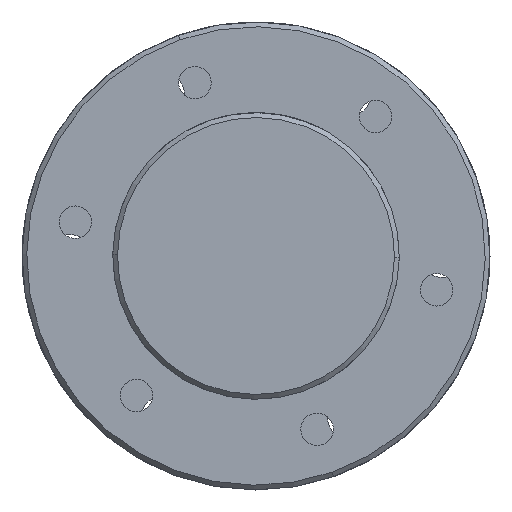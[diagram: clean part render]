
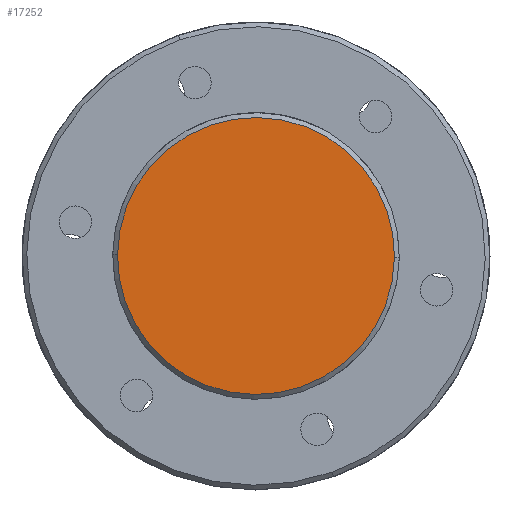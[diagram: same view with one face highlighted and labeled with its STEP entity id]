
A CAD part, left-side view. The second image highlights one B-rep face of the part: STEP entity #17252.
In plain terms, the highlighted planar face has unit normal (-1, 0, 0).
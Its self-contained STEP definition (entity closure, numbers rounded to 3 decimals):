
#1226 = CARTESIAN_POINT ( 'NONE',  ( 0., 0., -29. ) ) ;
#1478 = DIRECTION ( 'NONE',  ( 1., 0., 0. ) ) ;
#1578 = EDGE_CURVE ( 'NONE', #5221, #21408, #8401, .T. ) ;
#1991 = DIRECTION ( 'NONE',  ( 0., 0., -1. ) ) ;
#3402 = DIRECTION ( 'NONE',  ( -1., 0., 0. ) ) ;
#5221 = VERTEX_POINT ( 'NONE', #1226 ) ;
#5362 = EDGE_CURVE ( 'NONE', #21408, #5221, #9772, .T. ) ;
#6454 = DIRECTION ( 'NONE',  ( 0., 0., -1. ) ) ;
#8401 = CIRCLE ( 'NONE', #11883, 29. ) ;
#8671 = AXIS2_PLACEMENT_3D ( 'NONE', #16447, #1478, #11649 ) ;
#8743 = ORIENTED_EDGE ( 'NONE', *, *, #5362, .T. ) ;
#8989 = EDGE_LOOP ( 'NONE', ( #18151, #8743 ) ) ;
#9772 = CIRCLE ( 'NONE', #10133, 29. ) ;
#10133 = AXIS2_PLACEMENT_3D ( 'NONE', #21103, #11065, #6454 ) ;
#11065 = DIRECTION ( 'NONE',  ( -1., 0., 0. ) ) ;
#11649 = DIRECTION ( 'NONE',  ( 0., 0., -1. ) ) ;
#11883 = AXIS2_PLACEMENT_3D ( 'NONE', #18267, #3402, #1991 ) ;
#12610 = CARTESIAN_POINT ( 'NONE',  ( 0., 0., 29. ) ) ;
#16447 = CARTESIAN_POINT ( 'NONE',  ( 0., 0., 0. ) ) ;
#17252 = ADVANCED_FACE ( 'NONE', ( #21141 ), #19936, .F. ) ;
#18151 = ORIENTED_EDGE ( 'NONE', *, *, #1578, .T. ) ;
#18267 = CARTESIAN_POINT ( 'NONE',  ( 0., 0., 0. ) ) ;
#19936 = PLANE ( 'NONE',  #8671 ) ;
#21103 = CARTESIAN_POINT ( 'NONE',  ( 0., 0., 0. ) ) ;
#21141 = FACE_OUTER_BOUND ( 'NONE', #8989, .T. ) ;
#21408 = VERTEX_POINT ( 'NONE', #12610 ) ;
